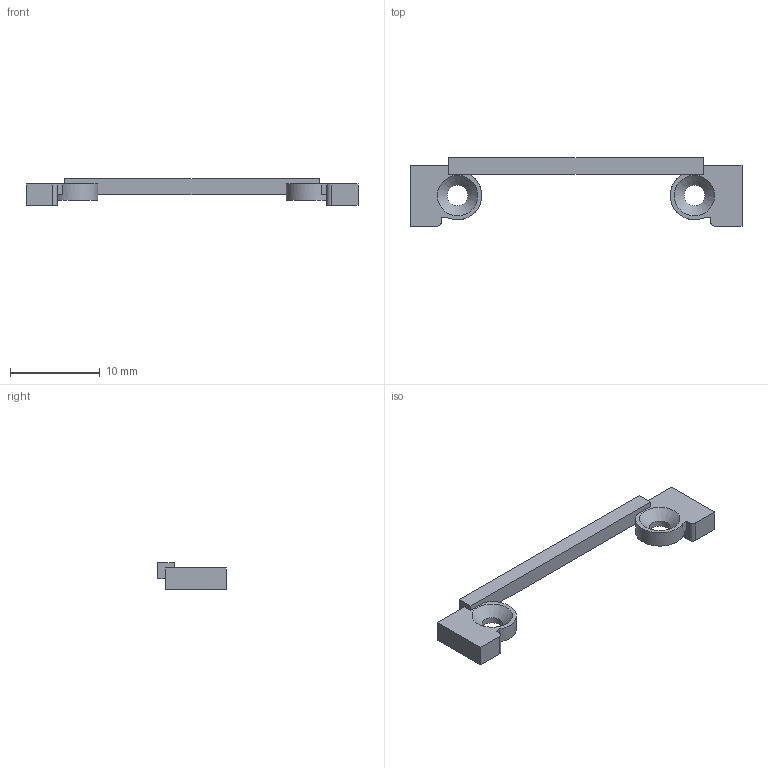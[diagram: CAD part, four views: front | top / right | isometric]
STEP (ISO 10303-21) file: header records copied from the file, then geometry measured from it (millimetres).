
FILE_DESCRIPTION(('Open CASCADE Model'),'2;1');
FILE_NAME('Open CASCADE Shape Model','2026-10-01T11:40:11',('Author'),( 'Open CASCADE'),'Open CASCADE STEP processor 7.9','Open CASCADE 7.9' ,'Unknown');
FILE_SCHEMA(('AUTOMOTIVE_DESIGN { 1 0 10303 214 1 1 1 1 }'));
Length unit declared in the file: millimetre
Products named in the file (1): Open CASCADE STEP translator 7.9 2
Bounding box: 37 x 7.6 x 2.98 mm (x, y, z)
Volume: 252.4 mm3; surface area: 500.7 mm2
Topology: 1 solids, 1 shells, 34 faces, 94 edges, 62 vertices
Faces by surface type: plane 24, cylinder 8, cone 2
Full cylindrical faces by diameter (mm): 2.3 x2
Entity records: 2313 total; most frequent: CARTESIAN_POINT 444, DIRECTION 339, LINE 211, VECTOR 211, ORIENTED_EDGE 188, PCURVE 188, DEFINITIONAL_REPRESENTATION 188, EDGE_CURVE 94
